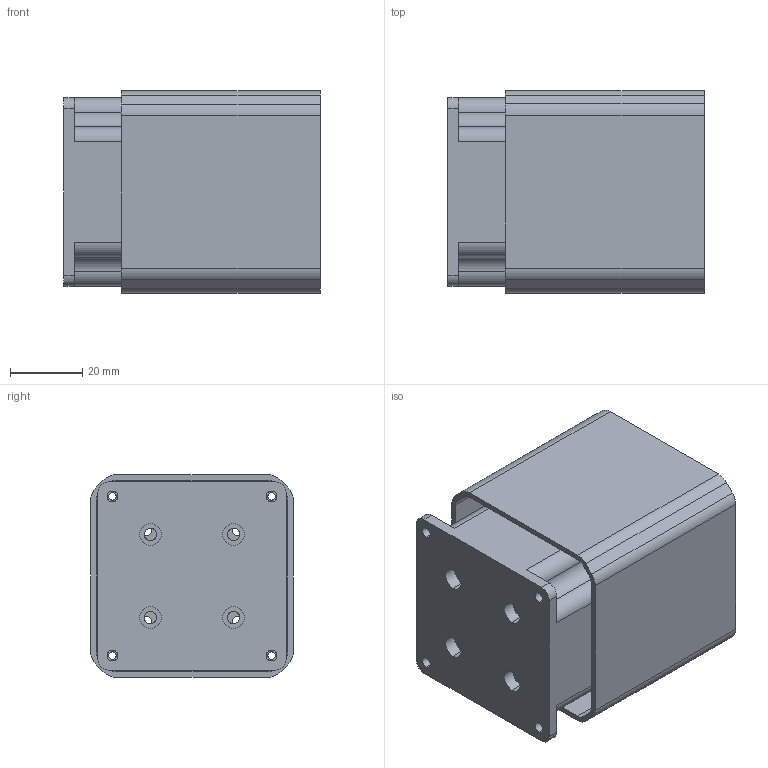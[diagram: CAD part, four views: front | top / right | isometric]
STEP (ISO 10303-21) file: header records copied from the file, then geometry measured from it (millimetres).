
FILE_DESCRIPTION (( 'STEP AP214' ), '1' );
FILE_NAME ('PT56-15.STEP', '2022-09-18T07:33:57', ( '' ), ( '' ), 'SwSTEP 2.0', 'SolidWorks 2017', '' );
FILE_SCHEMA (( 'AUTOMOTIVE_DESIGN' ));
Length unit declared in the file: millimetre
Products named in the file (1): PT56-15
Bounding box: 71 x 56 x 56 mm (x, y, z)
Surface area: 42414.9 mm2 (no closed solid volume)
Topology: 0 solids, 7 shells, 137 faces, 429 edges, 310 vertices
Faces by surface type: cylinder 93, plane 38, cone 6
Entity records: 6451 total; most frequent: CARTESIAN_POINT 2508, DIRECTION 852, ORIENTED_EDGE 714, EDGE_CURVE 429, AXIS2_PLACEMENT_3D 336, VERTEX_POINT 310, CIRCLE 198, EDGE_LOOP 193
